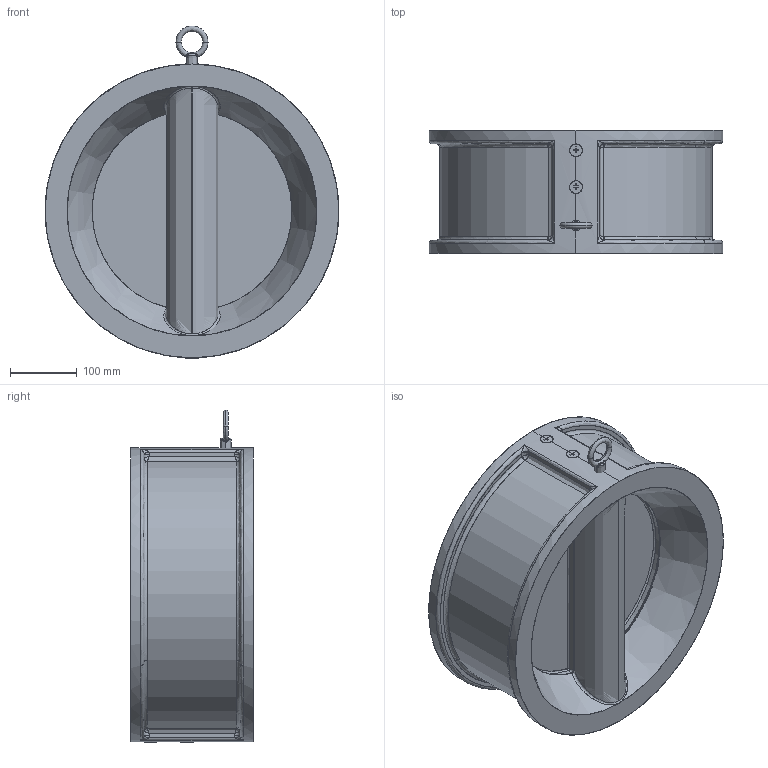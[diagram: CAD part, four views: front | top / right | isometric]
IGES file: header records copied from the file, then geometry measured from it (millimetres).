
Start section: SolidWorks IGES file using analytic representation for surfaces
Global section: file name: C:\Users\Administrator\Desktop\temp\00.IGS; native system: SolidWorks 2015; preprocessor: SolidWorks 2015; author: Administrator; date: 170402.181358; units: millimetre
Bounding box: 440 x 184 x 497.14 mm (x, y, z)
Surface area: 1082227.7 mm2 (no closed solid volume)
Topology: 0 solids, 0 shells, 501 faces, 5875 edges, 5844 vertices
Faces by surface type: bspline 298, revolution 203
